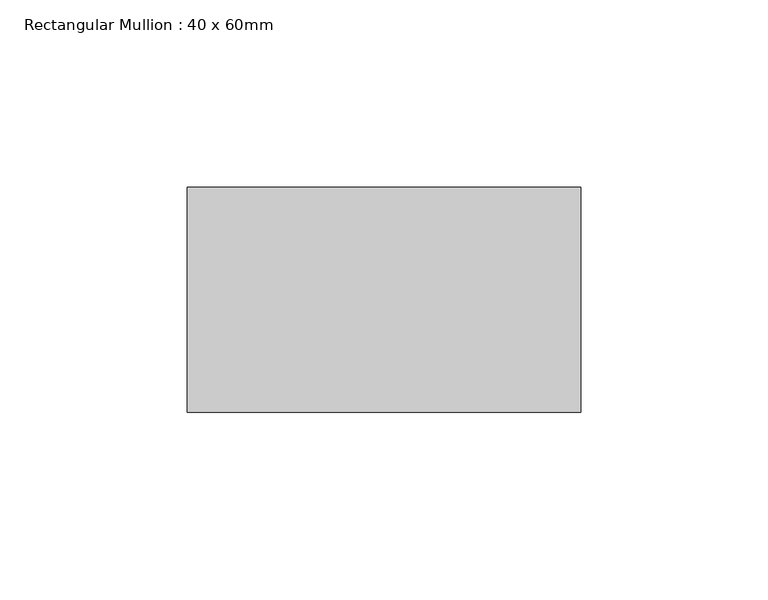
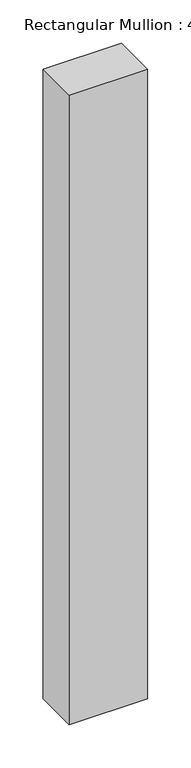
"""IFC4 building model written with IfcOpenShell, lengths in millimetres: member geometry, Rectangular Mullion : 40 x 60mm."""

from ifc_helpers import new_model, si_unit, frame, origin, place, context, project, spatial, polyline, outline, extrude, source, transform, mapped, element, save


def rectangular_mullion_40_x_60mm_b2d8730a(model_context):
    return source(origin(), model_context, "Body", "SweptSolid", [
        extrude(outline(polyline([(0.0, -10.0), (0.0, -70.0), (-105.0, -70.0), (-105.0, -10.0), (0.0, -10.0)])), frame((0.0, 0.0, -889.0023601), z_axis=(0.0, 0.0, 1.0), x_axis=(1.0, 0.0, 0.0)), (0.0, 0.0, 1.0), 889.0023601),
    ])


if __name__ == "__main__":
    model = new_model("IFC4")
    model_context = context("Model", 3, world=origin())
    ifc_project = project(units=[si_unit("LENGTHUNIT", "METRE", prefix="MILLI")], contexts=[model_context])
    site = spatial("IfcSite", under=ifc_project)
    building = spatial("IfcBuilding", under=site)
    placement = place(None, origin())
    rectangular_mullion_40_x_60mm_shape = rectangular_mullion_40_x_60mm_b2d8730a(model_context)
    element("IfcMember", 1, ObjectType="Rectangular Mullion : 40 x 60mm", at=placement, inside=building, context=model_context, shape_type="MappedRepresentation", body=[
        mapped(rectangular_mullion_40_x_60mm_shape, transform((0.0, 0.0, 0.0), x_axis=(1.0, 0.0, 0.0), y_axis=(0.0, 1.0, 0.0), z_axis=(0.0, 0.0, 1.0))),
    ])
    save(model, "model.ifc")
